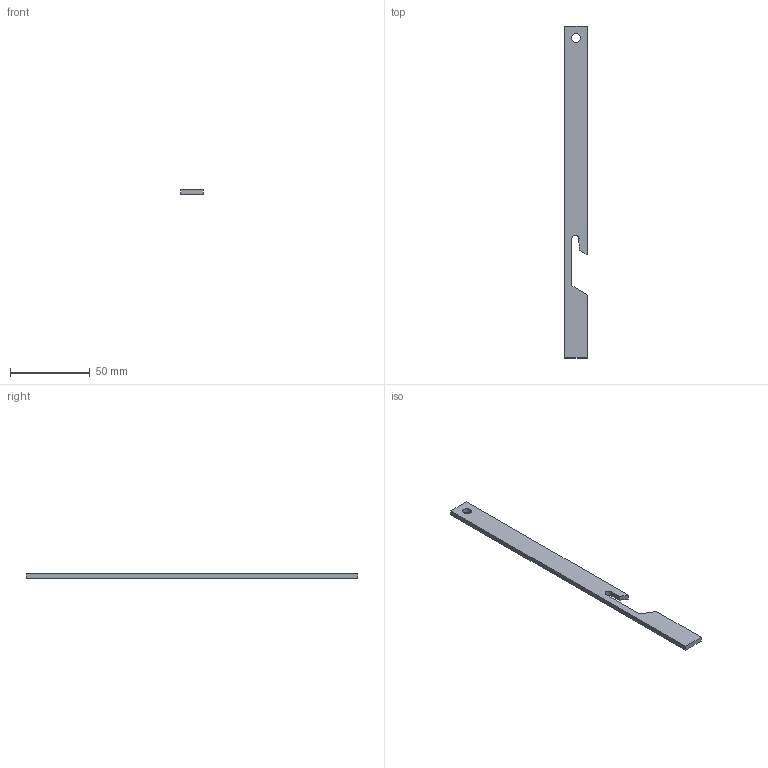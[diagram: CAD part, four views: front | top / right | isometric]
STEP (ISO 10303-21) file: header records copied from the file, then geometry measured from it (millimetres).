
FILE_DESCRIPTION (( 'STEP AP214' ), '1' );
FILE_NAME ('P390-210.STEP', '2016-09-08T08:19:52', ( '' ), ( '' ), 'SwSTEP 2.0', 'SolidWorks 2015', '' );
FILE_SCHEMA (( 'AUTOMOTIVE_DESIGN' ));
Length unit declared in the file: millimetre
Products named in the file (1): P390-210
Bounding box: 14 x 208.5 x 3 mm (x, y, z)
Volume: 7864.8 mm3; surface area: 6736.1 mm2
Topology: 1 solids, 1 shells, 15 faces, 39 edges, 26 vertices
Faces by surface type: plane 10, cylinder 5
Entity records: 501 total; most frequent: DIRECTION 81, CARTESIAN_POINT 81, ORIENTED_EDGE 78, EDGE_CURVE 39, LINE 29, VECTOR 29, VERTEX_POINT 26, AXIS2_PLACEMENT_3D 26
